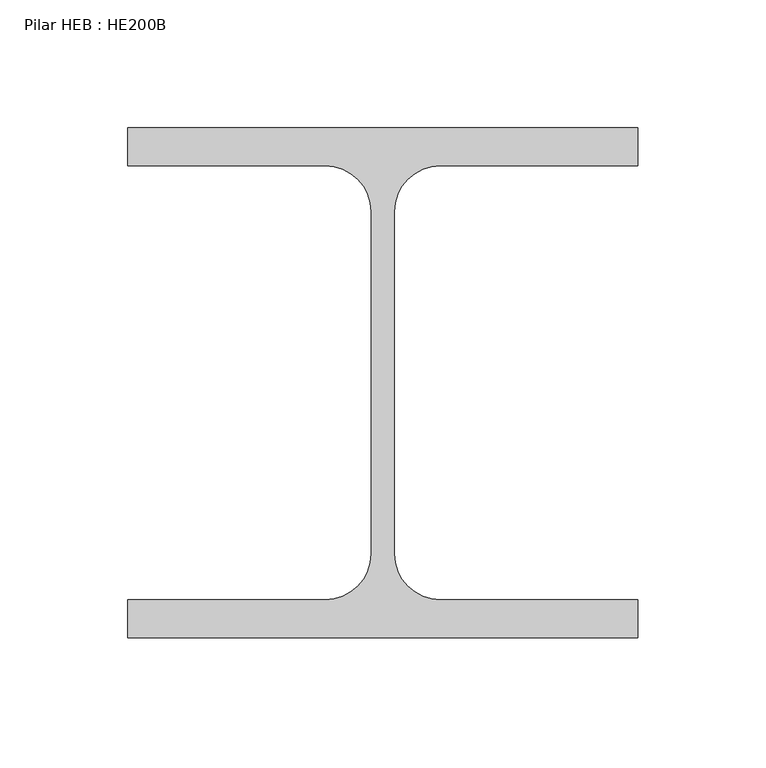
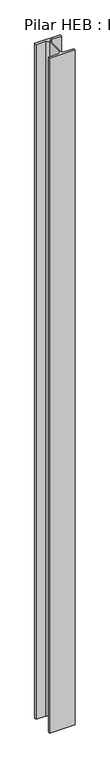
"""IFC4 building model written with IfcOpenShell, lengths in millimetres: column geometry, Pilar HEB : HE200B."""

from ifc_helpers import new_model, si_unit, point, frame, frame_2d, origin, place, context, project, spatial, polyline, circle_curve, trimmed, segment, composite_curve, outline, extrude, source, transform, mapped, element, save


def pilar_heb_he200b_056fbc33(model_context):
    return source(origin(), model_context, "Body", "SweptSolid", [
        extrude(outline(composite_curve([segment(polyline([(100.0, 100.0), (100.0, 85.0), (22.5, 85.0)]), True, "CONTINUOUS"), segment(trimmed(circle_curve(frame_2d((22.5, 67.0)), 18.0), [point((22.5, 85.0))], [point((4.5, 67.0))], True, "CARTESIAN"), True, "CONTINUOUS"), segment(polyline([(4.5, 67.0), (4.5, -67.0)]), True, "CONTINUOUS"), segment(trimmed(circle_curve(frame_2d((22.5, -67.0)), 18.0), [point((4.5, -67.0))], [point((22.5, -85.0))], True, "CARTESIAN"), True, "CONTINUOUS"), segment(polyline([(22.5, -85.0), (100.0, -85.0), (100.0, -100.0), (-100.0, -100.0), (-100.0, -85.0), (-22.5, -85.0)]), True, "CONTINUOUS"), segment(trimmed(circle_curve(frame_2d((-22.5, -67.0)), 18.0), [point((-22.5, -85.0))], [point((-4.5, -67.0))], True, "CARTESIAN"), True, "CONTINUOUS"), segment(polyline([(-4.5, -67.0), (-4.5, 67.0)]), True, "CONTINUOUS"), segment(trimmed(circle_curve(frame_2d((-22.5, 67.0)), 18.0), [point((-4.5, 67.0))], [point((-22.5, 85.0))], True, "CARTESIAN"), True, "CONTINUOUS"), segment(polyline([(-22.5, 85.0), (-100.0, 85.0), (-100.0, 100.0), (100.0, 100.0)]), True, "CONTINUOUS")], self_intersect=False)), frame((0.0, 0.0, -1000.0), z_axis=(0.0, 0.0, 1.0), x_axis=(1.0, 0.0, 0.0)), (0.0, 0.0, 1.0), 5550.0),
    ])


if __name__ == "__main__":
    model = new_model("IFC4")
    model_context = context("Model", 3, world=origin())
    ifc_project = project(units=[si_unit("LENGTHUNIT", "METRE", prefix="MILLI")], contexts=[model_context])
    site = spatial("IfcSite", under=ifc_project)
    building = spatial("IfcBuilding", under=site)
    placement = place(None, origin())
    pilar_heb_he200b_shape = pilar_heb_he200b_056fbc33(model_context)
    element("IfcColumn", 1, ObjectType="Pilar HEB : HE200B", at=placement, inside=building, context=model_context, shape_type="MappedRepresentation", body=[
        mapped(pilar_heb_he200b_shape, transform((0.0, 0.0, 0.0), x_axis=(1.0, 0.0, 0.0), y_axis=(0.0, 1.0, 0.0), z_axis=(0.0, 0.0, 1.0))),
    ])
    save(model, "model.ifc")
